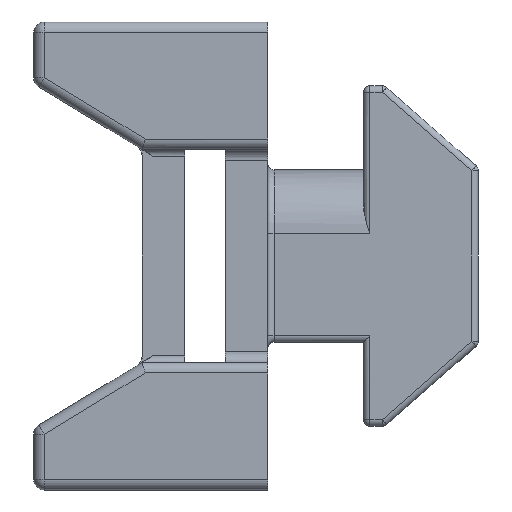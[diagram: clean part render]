
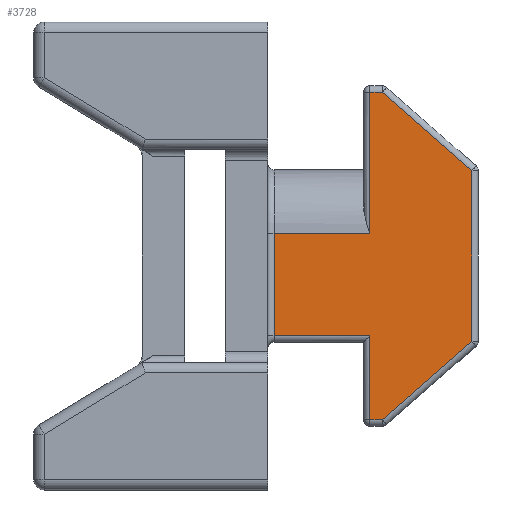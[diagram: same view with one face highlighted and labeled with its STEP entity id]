
A CAD part, left-side view. The second image highlights one B-rep face of the part: STEP entity #3728.
In plain terms, the highlighted planar face has unit normal (-1, 0, 0).
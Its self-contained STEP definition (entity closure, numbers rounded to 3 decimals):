
#79 = VERTEX_POINT ( 'NONE', #4562 ) ;
#108 = DIRECTION ( 'NONE',  ( 0., 0., -1. ) ) ;
#121 = VECTOR ( 'NONE', #2790, 1000. ) ;
#323 = CARTESIAN_POINT ( 'NONE',  ( -3.4, -4.8, 1.05 ) ) ;
#492 = EDGE_CURVE ( 'NONE', #3294, #1819, #2985, .T. ) ;
#596 = CARTESIAN_POINT ( 'NONE',  ( -3.4, -9.6, -4.014 ) ) ;
#632 = DIRECTION ( 'NONE',  ( 0., 0., -1. ) ) ;
#778 = EDGE_CURVE ( 'NONE', #1805, #79, #807, .T. ) ;
#788 = DIRECTION ( 'NONE',  ( 1., 0., 0. ) ) ;
#807 = LINE ( 'NONE', #2457, #1190 ) ;
#904 = ORIENTED_EDGE ( 'NONE', *, *, #5285, .T. ) ;
#922 = VECTOR ( 'NONE', #108, 1000. ) ;
#931 = LINE ( 'NONE', #2167, #2057 ) ;
#932 = VERTEX_POINT ( 'NONE', #3118 ) ;
#959 = VERTEX_POINT ( 'NONE', #3956 ) ;
#1054 = CARTESIAN_POINT ( 'NONE',  ( -3.4, -4.5, 1.05 ) ) ;
#1190 = VECTOR ( 'NONE', #1539, 1000. ) ;
#1278 = DIRECTION ( 'NONE',  ( 0., -1., 0. ) ) ;
#1419 = ORIENTED_EDGE ( 'NONE', *, *, #4344, .T. ) ;
#1461 = VERTEX_POINT ( 'NONE', #1605 ) ;
#1539 = DIRECTION ( 'NONE',  ( 0., -1., 0. ) ) ;
#1578 = CARTESIAN_POINT ( 'NONE',  ( -3.4, -0.3, 1.05 ) ) ;
#1599 = CARTESIAN_POINT ( 'NONE',  ( -3.4, -0.3, -3.75 ) ) ;
#1605 = CARTESIAN_POINT ( 'NONE',  ( -3.4, -9.6, 4.014 ) ) ;
#1647 = VECTOR ( 'NONE', #632, 1000. ) ;
#1703 = CARTESIAN_POINT ( 'NONE',  ( -3.4, -4.5, 7.7 ) ) ;
#1791 = EDGE_CURVE ( 'NONE', #79, #2150, #931, .T. ) ;
#1805 = VERTEX_POINT ( 'NONE', #3557 ) ;
#1819 = VERTEX_POINT ( 'NONE', #1599 ) ;
#1942 = CARTESIAN_POINT ( 'NONE',  ( -3.4, -9.6, 4.15 ) ) ;
#2031 = ORIENTED_EDGE ( 'NONE', *, *, #778, .T. ) ;
#2057 = VECTOR ( 'NONE', #4715, 1000. ) ;
#2106 = DIRECTION ( 'NONE',  ( 0., 1., 0. ) ) ;
#2128 = EDGE_CURVE ( 'NONE', #5308, #3294, #4317, .T. ) ;
#2150 = VERTEX_POINT ( 'NONE', #596 ) ;
#2158 = VECTOR ( 'NONE', #2673, 1000. ) ;
#2167 = CARTESIAN_POINT ( 'NONE',  ( -3.4, -9.702, -3.924 ) ) ;
#2213 = CARTESIAN_POINT ( 'NONE',  ( -3.4, -0.3, -4.05 ) ) ;
#2457 = CARTESIAN_POINT ( 'NONE',  ( -3.4, -5.5, -7.7 ) ) ;
#2503 = ORIENTED_EDGE ( 'NONE', *, *, #492, .T. ) ;
#2522 = CARTESIAN_POINT ( 'NONE',  ( -3.4, -4.5, -3.75 ) ) ;
#2622 = ORIENTED_EDGE ( 'NONE', *, *, #3170, .T. ) ;
#2673 = DIRECTION ( 'NONE',  ( 0., 0., -1. ) ) ;
#2704 = DIRECTION ( 'NONE',  ( 0., 0.753, 0.659 ) ) ;
#2766 = FACE_OUTER_BOUND ( 'NONE', #3983, .T. ) ;
#2790 = DIRECTION ( 'NONE',  ( 0., 0., 1. ) ) ;
#2821 = CARTESIAN_POINT ( 'NONE',  ( -3.4, -4.5, -4.05 ) ) ;
#2880 = LINE ( 'NONE', #1942, #121 ) ;
#2940 = EDGE_CURVE ( 'NONE', #1819, #932, #4928, .T. ) ;
#2955 = VECTOR ( 'NONE', #2106, 1000. ) ;
#2985 = LINE ( 'NONE', #2213, #922 ) ;
#3092 = LINE ( 'NONE', #3875, #2158 ) ;
#3118 = CARTESIAN_POINT ( 'NONE',  ( -3.4, -4.8, -3.75 ) ) ;
#3170 = EDGE_CURVE ( 'NONE', #959, #5308, #3624, .T. ) ;
#3294 = VERTEX_POINT ( 'NONE', #1578 ) ;
#3461 = DIRECTION ( 'NONE',  ( 0., 1., 0. ) ) ;
#3548 = ORIENTED_EDGE ( 'NONE', *, *, #3821, .T. ) ;
#3557 = CARTESIAN_POINT ( 'NONE',  ( -3.4, -4.8, -7.7 ) ) ;
#3624 = LINE ( 'NONE', #3682, #1647 ) ;
#3682 = CARTESIAN_POINT ( 'NONE',  ( -3.4, -4.8, 1.05 ) ) ;
#3728 = ADVANCED_FACE ( 'NONE', ( #2766 ), #4131, .F. ) ;
#3778 = VECTOR ( 'NONE', #3461, 1000. ) ;
#3821 = EDGE_CURVE ( 'NONE', #4061, #959, #4244, .T. ) ;
#3875 = CARTESIAN_POINT ( 'NONE',  ( -3.4, -4.8, -8. ) ) ;
#3907 = AXIS2_PLACEMENT_3D ( 'NONE', #2821, #788, #4445 ) ;
#3956 = CARTESIAN_POINT ( 'NONE',  ( -3.4, -4.8, 7.7 ) ) ;
#3983 = EDGE_LOOP ( 'NONE', ( #2622, #4245, #2503, #5109, #4289, #2031, #4763, #904, #1419, #3548 ) ) ;
#3998 = VECTOR ( 'NONE', #1278, 1000. ) ;
#4061 = VERTEX_POINT ( 'NONE', #4324 ) ;
#4089 = VECTOR ( 'NONE', #2704, 1000. ) ;
#4131 = PLANE ( 'NONE',  #3907 ) ;
#4244 = LINE ( 'NONE', #1703, #2955 ) ;
#4245 = ORIENTED_EDGE ( 'NONE', *, *, #2128, .T. ) ;
#4289 = ORIENTED_EDGE ( 'NONE', *, *, #4397, .T. ) ;
#4317 = LINE ( 'NONE', #1054, #3778 ) ;
#4324 = CARTESIAN_POINT ( 'NONE',  ( -3.4, -5.387, 7.7 ) ) ;
#4344 = EDGE_CURVE ( 'NONE', #1461, #4061, #4757, .T. ) ;
#4397 = EDGE_CURVE ( 'NONE', #932, #1805, #3092, .T. ) ;
#4445 = DIRECTION ( 'NONE',  ( 0., 0., -1. ) ) ;
#4562 = CARTESIAN_POINT ( 'NONE',  ( -3.4, -5.387, -7.7 ) ) ;
#4699 = CARTESIAN_POINT ( 'NONE',  ( -3.4, -5.302, 7.774 ) ) ;
#4715 = DIRECTION ( 'NONE',  ( 0., -0.753, 0.659 ) ) ;
#4757 = LINE ( 'NONE', #4699, #4089 ) ;
#4763 = ORIENTED_EDGE ( 'NONE', *, *, #1791, .T. ) ;
#4928 = LINE ( 'NONE', #2522, #3998 ) ;
#5109 = ORIENTED_EDGE ( 'NONE', *, *, #2940, .T. ) ;
#5285 = EDGE_CURVE ( 'NONE', #2150, #1461, #2880, .T. ) ;
#5308 = VERTEX_POINT ( 'NONE', #323 ) ;
